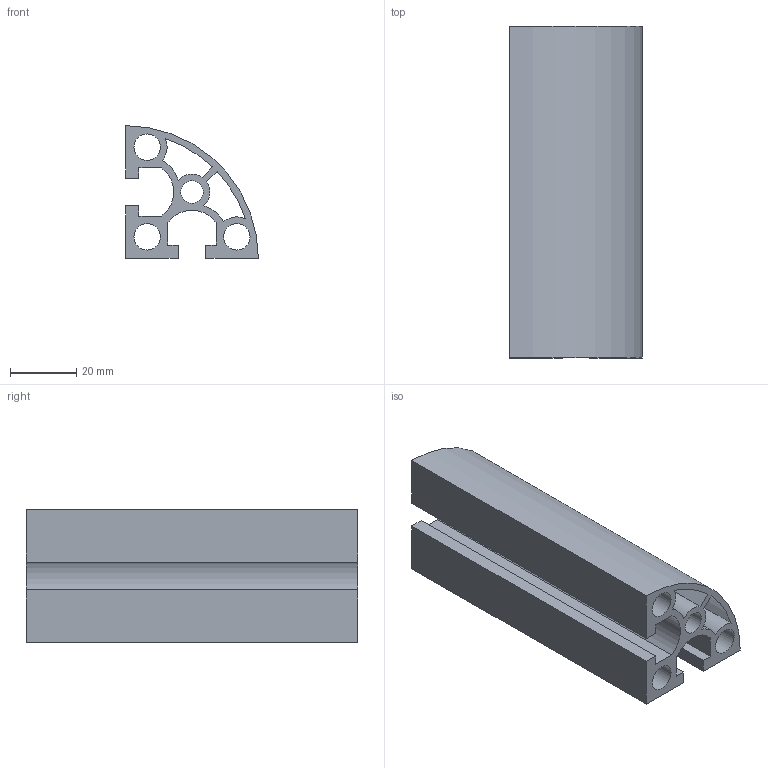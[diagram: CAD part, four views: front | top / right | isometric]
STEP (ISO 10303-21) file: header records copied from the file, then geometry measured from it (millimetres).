
FILE_DESCRIPTION(/* description */ ('Unknown'),/* implementation_level */ '2;1');
FILE_NAME(/* name */ 'NM4040R',/* time_stamp */ '2026-08-31T11:36:25+08:00',/* author */ ('Unknown'),/* organization */ ('Unknown'),/* preprocessor_version */ 'ST-DEVELOPER v16.7',/* originating_system */ 'DEX',/* authorisation */ $);
FILE_SCHEMA (('AUTOMOTIVE_DESIGN {1 0 10303 214 3 1 1}'));
Length unit declared in the file: millimetre
Products named in the file (1): 4040R-
Bounding box: 40 x 100 x 40 mm (x, y, z)
Volume: 53759.1 mm3; surface area: 41064 mm2
Topology: 1 solids, 1 shells, 35 faces, 103 edges, 70 vertices
Faces by surface type: plane 20, cylinder 15
Full cylindrical faces by diameter (mm): 6.8 x1, 8 x3
Entity records: 1177 total; most frequent: DIRECTION 197, CARTESIAN_POINT 197, ORIENTED_EDGE 190, EDGE_CURVE 95, VERTEX_POINT 66, AXIS2_PLACEMENT_3D 66, LINE 65, VECTOR 65
